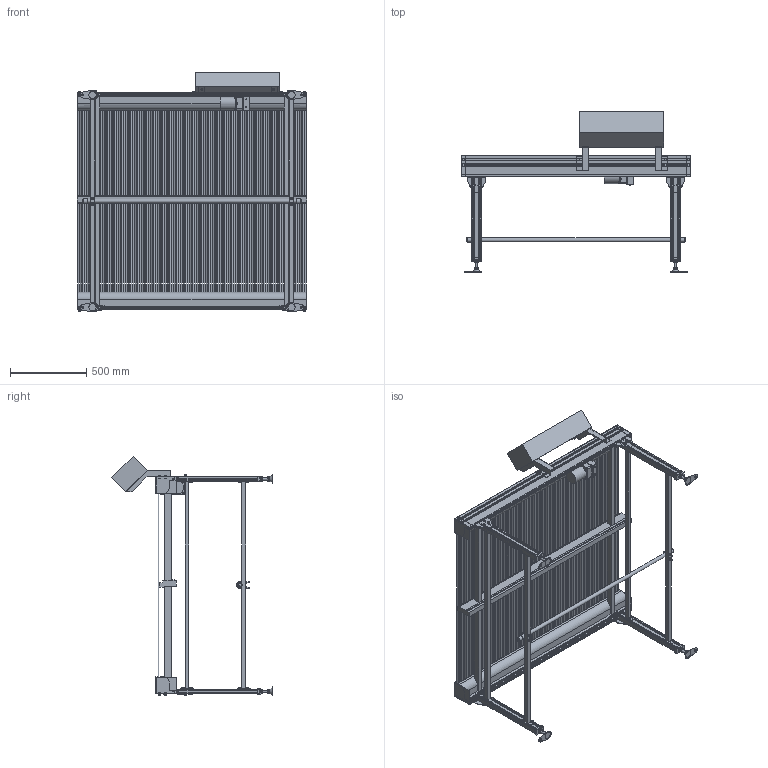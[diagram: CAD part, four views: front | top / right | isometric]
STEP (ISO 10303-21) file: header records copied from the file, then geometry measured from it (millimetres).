
FILE_DESCRIPTION( (''), '2;1');
FILE_NAME ('GPA10-M-304-1200-150-IVH-7.5.stp','2025-02-18T16:07:30',(''),(''),'spGate 20.6.2 (****-****-****-****)','','');
FILE_SCHEMA (('AUTOMOTIVE_DESIGN'));
Length unit declared in the file: millimetre
Products named in the file (134): GPA10-M-304-1200-150-IVH-7.5; TEMP_X_T-prt0; TEMP_X_T-prt1; TEMP_X_T-prt2; TEMP_X_T-prt3; TEMP_X_T-prt4; TEMP_X_T-prt5; TEMP_X_T-prt6; TEMP_X_T-prt7; TEMP_X_T-prt8; TEMP_X_T-prt9; TEMP_X_T-prt10; TEMP_X_T-prt11; TEMP_X_T-prt12; TEMP_X_T-prt13; TEMP_X_T-prt14; TEMP_X_T-prt15; TEMP_X_T-prt16; TEMP_X_T-prt17; TEMP_X_T-prt18; TEMP_X_T-prt19; TEMP_X_T-prt20; TEMP_X_T-prt21; TEMP_X_T-prt22; TEMP_X_T-prt23; TEMP_X_T-prt24; TEMP_X_T-prt25; TEMP_X_T-prt26; TEMP_X_T-prt27; TEMP_X_T-prt28; TEMP_X_T-prt29; TEMP_X_T-prt30; TEMP_X_T-prt31; TEMP_X_T-prt32; TEMP_X_T-prt33; TEMP_X_T-prt34; TEMP_X_T-prt35; TEMP_X_T-prt36; TEMP_X_T-prt37; TEMP_X_T-prt38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
Assembly tree (133 placements, depth 2):
  GPA10-M-304-1200-150-IVH-7.5
    TEMP_X_T-prt0
    TEMP_X_T-prt1
    TEMP_X_T-prt2
    TEMP_X_T-prt3
    TEMP_X_T-prt4
    TEMP_X_T-prt5
    TEMP_X_T-prt6
    TEMP_X_T-prt7
    TEMP_X_T-prt8
    TEMP_X_T-prt9
    TEMP_X_T-prt10
    TEMP_X_T-prt11
    TEMP_X_T-prt12
    TEMP_X_T-prt13
    TEMP_X_T-prt14
    TEMP_X_T-prt15
    TEMP_X_T-prt16
    TEMP_X_T-prt17
    TEMP_X_T-prt18
    TEMP_X_T-prt19
    TEMP_X_T-prt20
    TEMP_X_T-prt21
    TEMP_X_T-prt22
    TEMP_X_T-prt23
    TEMP_X_T-prt24
    TEMP_X_T-prt25
    TEMP_X_T-prt26
    TEMP_X_T-prt27
    TEMP_X_T-prt28
    TEMP_X_T-prt29
    TEMP_X_T-prt30
    TEMP_X_T-prt31
    TEMP_X_T-prt32
    TEMP_X_T-prt33
    TEMP_X_T-prt34
    TEMP_X_T-prt35
    TEMP_X_T-prt36
    TEMP_X_T-prt37
    TEMP_X_T-prt38
    TEMP_X_T-prt39
    TEMP_X_T-prt40
    TEMP_X_T-prt41
    TEMP_X_T-prt42
    TEMP_X_T-prt43
    TEMP_X_T-prt44
    TEMP_X_T-prt45
    TEMP_X_T-prt46
    TEMP_X_T-prt47
    TEMP_X_T-prt48
    TEMP_X_T-prt49
    TEMP_X_T-prt50
    TEMP_X_T-prt51
    TEMP_X_T-prt52
    TEMP_X_T-prt53
    TEMP_X_T-prt54
    TEMP_X_T-prt55
    TEMP_X_T-prt56
    TEMP_X_T-prt57
    TEMP_X_T-prt58
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Bounding box: 1505 x 1052.93 x 1570.83 mm (x, y, z)
Volume: 71775159.5 mm3; surface area: 9576274.9 mm2
Topology: 133 solids, 133 shells, 1778 faces, 4307 edges, 2911 vertices
Faces by surface type: plane 1460, cylinder 266, bspline 52
Full cylindrical faces by diameter (mm): 6 x3, 6.5 x8, 7 x4, 8 x8, 9 x1, 10 x103, 12 x1, 12.2 x4, 12.5 x8, 13 x4, 14 x12, 15.4 x36, 16 x8, 17 x20, 25.4 x1, 28.4 x2, 30 x4, 36 x2, 83 x1, 87.5 x1
Entity records: 93399 total; most frequent: CARTESIAN_POINT 11979, DIRECTION 8937, ORIENTED_EDGE 8602, COLOUR_RGB 6212, PRESENTATION_STYLE_ASSIGNMENT 6212, STYLED_ITEM 6212, EDGE_CURVE 4301, DRAUGHTING_PRE_DEFINED_CURVE_FONT 4301
